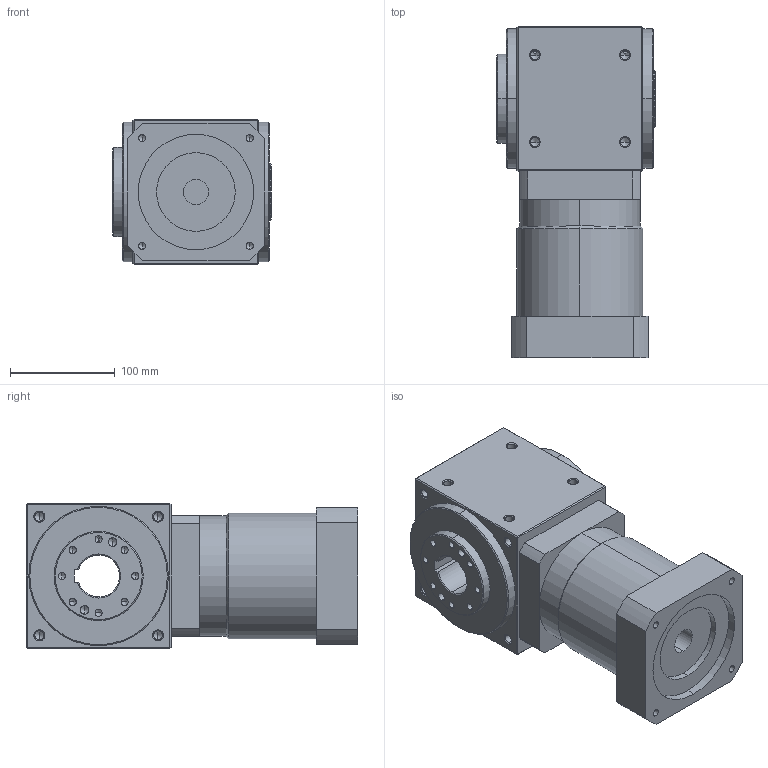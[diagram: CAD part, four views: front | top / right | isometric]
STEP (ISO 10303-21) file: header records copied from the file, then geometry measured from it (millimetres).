
FILE_DESCRIPTION (( 'STEP AP214' ), '1' );
FILE_NAME ('RXW135AS-L2-RFK-22-110-145-m8.STEP', '2020-11-27T05:26:49', ( '微软用户' ), ( '微软中国' ), 'SwSTEP 2.0', 'SolidWorks 2014', '' );
FILE_SCHEMA (( 'AUTOMOTIVE_DESIGN' ));
Length unit declared in the file: millimetre
Products named in the file (2): RXW135AS-L2-RFK-22-110-145-m8
Bounding box: 151.5 x 316 x 138 mm (x, y, z)
Volume: 4496119.6 mm3; surface area: 268767.3 mm2
Topology: 2 solids, 2 shells, 275 faces, 658 edges, 354 vertices
Faces by surface type: cone 124, cylinder 99, plane 52
Entity records: 9936 total; most frequent: DIRECTION 1388, CARTESIAN_POINT 1345, ORIENTED_EDGE 1180, EDGE_CURVE 590, AXIS2_PLACEMENT_3D 541, VERTEX_POINT 354, EDGE_LOOP 320, VECTOR 306
